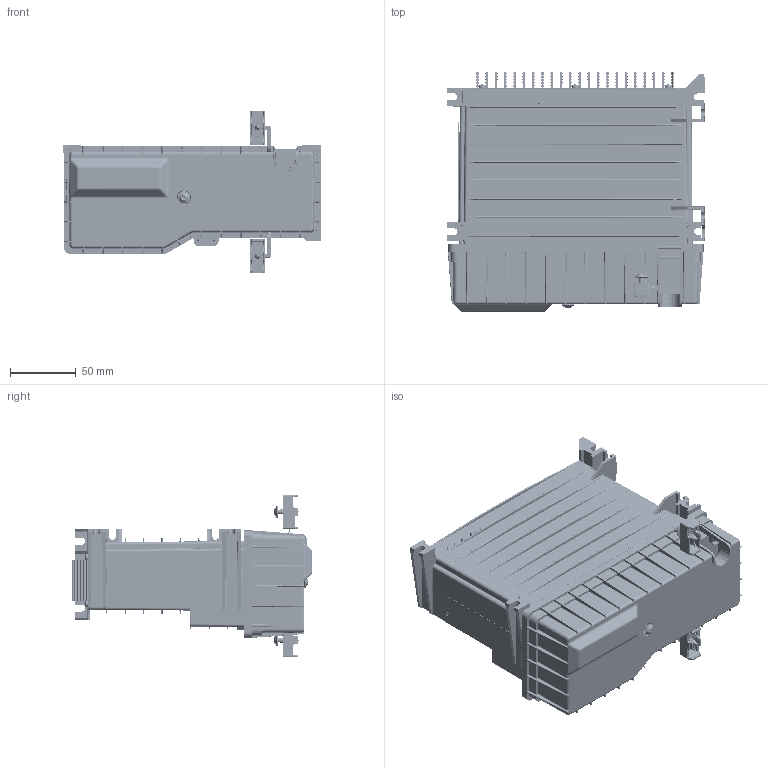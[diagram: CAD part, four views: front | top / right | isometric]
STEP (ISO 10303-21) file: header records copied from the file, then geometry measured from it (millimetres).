
FILE_DESCRIPTION((''),'2;1');
FILE_NAME('0000131254_ASM','2020-11-03T09:33:39',('CN6607'),(''),'CREO PARAMETRIC BY PTC INC, 2020053','CREO PARAMETRIC BY PTC INC, 2020053','');
FILE_SCHEMA(('CONFIG_CONTROL_DESIGN'));
Products named in the file (28): 105B4381_1; 640N2343_1; 640N2344_1_1; 640N2344_1_2; 640N2344_1_3; 640N2344_1_4; 640N2344_1_ASM; 640N0326_1; THFK247_1; 640N0578__1; 640N2416_1; 640N2422_1; 640N2259_1; 640N0360_1; 105B0220_ASM_1_ASM; 640N0053_1; C-1217754-01-C-3D_1; 105B1019_ASM_1_ASM; 640N2386_1; 105B4324_1; 105B4283_1; 105B4284_1; 640N2369_1; 640N0428_1; 105A0176_BLANK_1; 105A0216_1; 105N4700_ASM_1_ASM; 0000131254_ASM
Assembly tree (56 placements, depth 6):
  0000131254_ASM
    105N4700_ASM_1_ASM
      105B1019_ASM_1_ASM
        105B0220_ASM_1_ASM
          105B4381_1
          640N2343_1
          640N2344_1_ASM
            640N2344_1_1
            640N2344_1_2
            640N2344_1_3
            640N2344_1_4
          640N0326_1
          THFK247_1
          640N0578__1
          640N2416_1  x4
          640N2422_1
          640N2259_1
          640N0360_1  x5
        640N0360_1  x3
        640N0053_1  x3
        C-1217754-01-C-3D_1  x8
      640N2386_1
      105B4324_1
      105B4283_1
      105B4284_1
      640N2422_1  x6
      640N2369_1  x3
      640N0428_1  x3
      105A0176_BLANK_1
      105A0216_1
Bounding box: 196.5 x 182.78 x 123.82 mm (x, y, z)
Volume: 372960.1 mm3; surface area: 404528.5 mm2
Topology: 44 solids, 52 shells, 9220 faces, 27455 edges, 18536 vertices
Faces by surface type: plane 5199, cylinder 2755, bspline 480, cone 455, torus 180, sphere 85, extrusion 66
Entity records: 328825 total; most frequent: CARTESIAN_POINT 104158, ORIENTED_EDGE 49960, DIRECTION 43572, EDGE_CURVE 24980, VERTEX_POINT 16964, VECTOR 16050, LINE 15984, AXIS2_PLACEMENT_3D 13761
